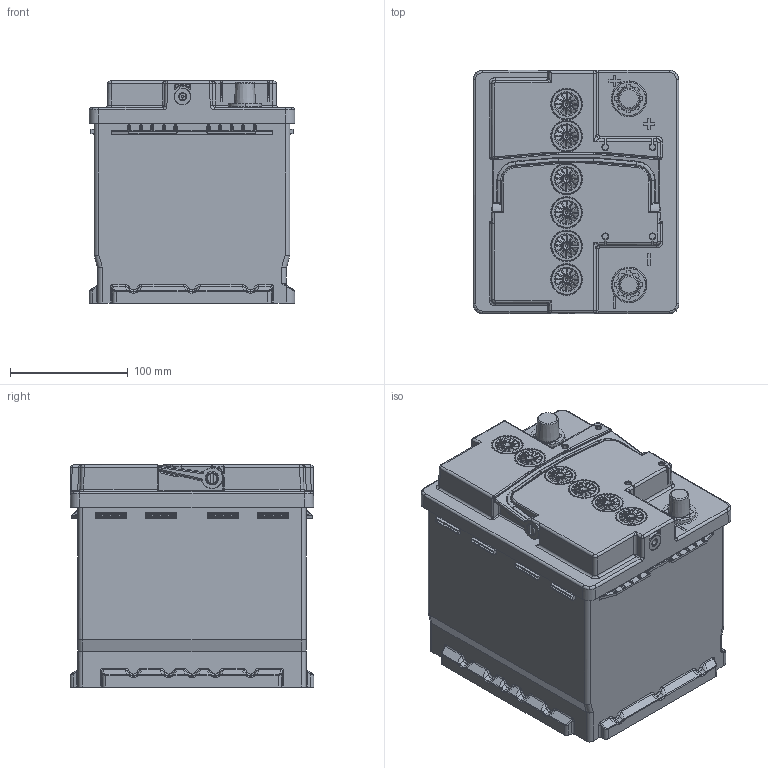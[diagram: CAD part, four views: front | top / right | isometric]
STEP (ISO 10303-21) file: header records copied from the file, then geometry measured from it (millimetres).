
FILE_DESCRIPTION(('CATIA V5 STEP Exchange'),'2;1');
FILE_NAME('C:\Users\bheya\bheya job\JOB\2012.10\AGM 3D & 2D\Single dump solid AGM H4-H8\AGM H4 3D.stp','2017-06-22T02:20:20+00:00',('none'),('none'),'CATIA Version 5 Release 19 SP 9 (IN-10)','CATIA V5 STEP AP203','none');
FILE_SCHEMA(('CONFIG_CONTROL_DESIGN'));
Products named in the file (1): 300XXXXX_C3K_000_00_AA
Bounding box: 174.8 x 206.75 x 188.5 mm (x, y, z)
Volume: 5837783.7 mm3; surface area: 266923.3 mm2
Topology: 1 solids, 1 shells, 5108 faces, 13512 edges, 8342 vertices
Faces by surface type: cylinder 1540, bspline 1515, plane 1220, sphere 477, cone 266, torus 90
Entity records: 197274 total; most frequent: CARTESIAN_POINT 96037, ORIENTED_EDGE 26414, DIRECTION 13365, EDGE_CURVE 13207, VERTEX_POINT 8342, AXIS2_PLACEMENT_3D 5358, EDGE_LOOP 5353, ADVANCED_FACE 5108
